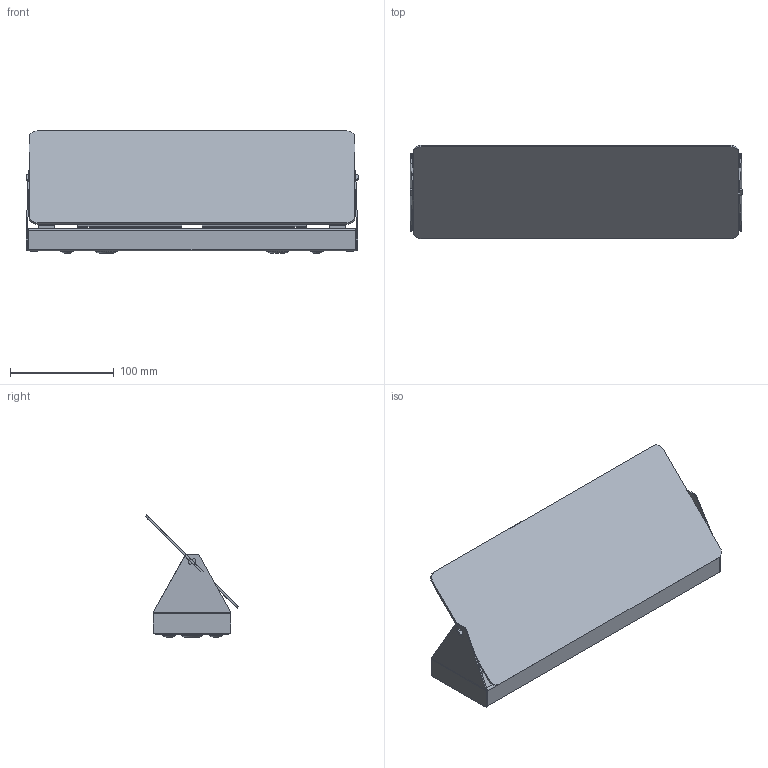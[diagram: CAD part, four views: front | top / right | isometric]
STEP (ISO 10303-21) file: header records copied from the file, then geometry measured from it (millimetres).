
FILE_DESCRIPTION (( 'STEP AP214' ), '1' );
FILE_NAME ('3D_APPLIQUE_A_VOLET_PIVOTANT_DOUBLE.STEP', '2018-03-23T09:31:01', ( 'Utente' ), ( '' ), 'SwSTEP 2.0', 'SolidWorks 2016', '' );
FILE_SCHEMA (( 'AUTOMOTIVE_DESIGN' ));
Length unit declared in the file: millimetre
Products named in the file (5): 010AVP700331 VOLE DOUBLEMARTI-1^3D_APPLIQUE_A_VOLET_PIVOTANT_DOUBLE; Group5^3D_APPLIQUE_A_VOLET_PIVOTANT_DOUBLE; Group4^3D_APPLIQUE_A_VOLET_PIVOTANT_DOUBLE; Group3^3D_APPLIQUE_A_VOLET_PIVOTANT_DOUBLE; 3D_APPLIQUE_A_VOLET_PIVOTANT_DOUBLE
Assembly tree (4 placements, depth 2):
  3D_APPLIQUE_A_VOLET_PIVOTANT_DOUBLE
    Group3^3D_APPLIQUE_A_VOLET_PIVOTANT_DOUBLE
    Group4^3D_APPLIQUE_A_VOLET_PIVOTANT_DOUBLE
    Group5^3D_APPLIQUE_A_VOLET_PIVOTANT_DOUBLE
    010AVP700331 VOLE DOUBLEMARTI-1^3D_APPLIQUE_A_VOLET_PIVOTANT_DOUBLE
Bounding box: 320 x 89.8 x 117.6 mm (x, y, z)
Volume: 287383.1 mm3; surface area: 291136.9 mm2
Topology: 6 solids, 6 shells, 382 faces, 901 edges, 544 vertices
Faces by surface type: plane 180, cylinder 120, torus 48, cone 30, bspline 4
Entity records: 11936 total; most frequent: DIRECTION 2025, CARTESIAN_POINT 1898, ORIENTED_EDGE 1802, EDGE_CURVE 901, AXIS2_PLACEMENT_3D 751, VERTEX_POINT 544, VECTOR 523, LINE 523
